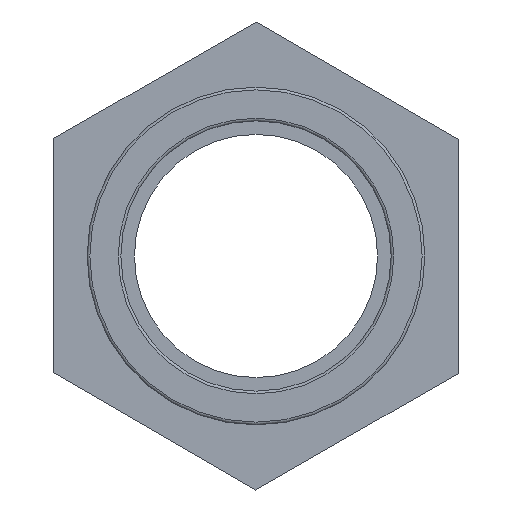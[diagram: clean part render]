
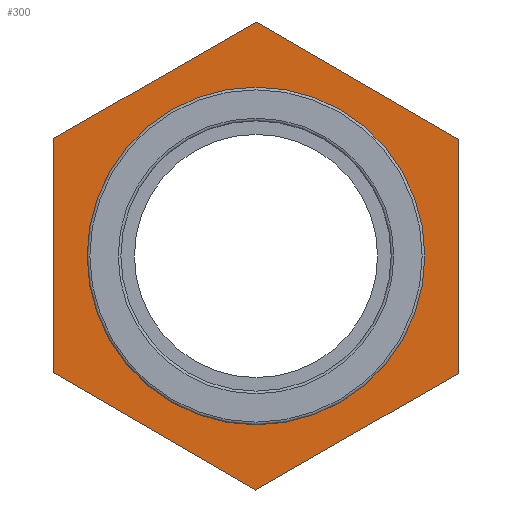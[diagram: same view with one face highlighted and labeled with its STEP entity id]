
A CAD part, left-side view. The second image highlights one B-rep face of the part: STEP entity #300.
In plain terms, the highlighted planar face has unit normal (-1, 0, 0).
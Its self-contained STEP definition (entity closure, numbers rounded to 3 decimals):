
#15=LINE('',#466,#33);
#19=LINE('',#474,#37);
#22=LINE('',#480,#40);
#25=LINE('',#487,#43);
#29=LINE('',#494,#47);
#31=LINE('',#497,#49);
#33=VECTOR('',#386,17.321);
#37=VECTOR('',#392,17.321);
#40=VECTOR('',#397,17.321);
#43=VECTOR('',#402,17.321);
#47=VECTOR('',#408,17.321);
#49=VECTOR('',#412,17.321);
#67=PLANE('',#337);
#82=FACE_BOUND('',#139,.T.);
#103=FACE_OUTER_BOUND('',#138,.T.);
#138=EDGE_LOOP('',(#269,#270,#271,#272,#273,#274));
#139=EDGE_LOOP('',(#275));
#151=CIRCLE('',#324,12.5);
#165=VERTEX_POINT('',#461);
#166=VERTEX_POINT('',#464);
#167=VERTEX_POINT('',#465);
#170=VERTEX_POINT('',#473);
#172=VERTEX_POINT('',#479);
#174=VERTEX_POINT('',#485);
#175=VERTEX_POINT('',#486);
#191=EDGE_CURVE('',#165,#165,#151,.T.);
#192=EDGE_CURVE('',#166,#167,#15,.T.);
#196=EDGE_CURVE('',#167,#170,#19,.T.);
#199=EDGE_CURVE('',#170,#172,#22,.T.);
#202=EDGE_CURVE('',#174,#175,#25,.T.);
#206=EDGE_CURVE('',#175,#166,#29,.T.);
#208=EDGE_CURVE('',#172,#174,#31,.T.);
#269=ORIENTED_EDGE('',*,*,#206,.F.);
#270=ORIENTED_EDGE('',*,*,#202,.F.);
#271=ORIENTED_EDGE('',*,*,#208,.F.);
#272=ORIENTED_EDGE('',*,*,#199,.F.);
#273=ORIENTED_EDGE('',*,*,#196,.F.);
#274=ORIENTED_EDGE('',*,*,#192,.F.);
#275=ORIENTED_EDGE('',*,*,#191,.F.);
#300=ADVANCED_FACE('',(#103,#82),#67,.T.);
#324=AXIS2_PLACEMENT_3D('',#462,#382,#383);
#337=AXIS2_PLACEMENT_3D('',#507,#426,#427);
#382=DIRECTION('center_axis',(-1.,0.,0.));
#383=DIRECTION('ref_axis',(0.,0.,1.));
#386=DIRECTION('',(0.,0.003,-1.));
#392=DIRECTION('',(0.,0.867,-0.498));
#397=DIRECTION('',(0.,0.865,0.502));
#402=DIRECTION('',(0.,-0.867,0.498));
#408=DIRECTION('',(0.,-0.865,-0.502));
#412=DIRECTION('',(0.,-0.003,1.));
#426=DIRECTION('center_axis',(-1.,0.,0.));
#427=DIRECTION('ref_axis',(0.,0.,1.));
#461=CARTESIAN_POINT('',(-4.,-12.5,0.));
#462=CARTESIAN_POINT('Origin',(-4.,0.,0.));
#464=CARTESIAN_POINT('',(-4.,-15.023,8.62));
#465=CARTESIAN_POINT('',(-4.,-14.977,-8.7));
#466=CARTESIAN_POINT('',(-4.,-14.988,-4.37));
#473=CARTESIAN_POINT('',(-4.,0.046,-17.32));
#474=CARTESIAN_POINT('',(-4.,-3.71,-15.165));
#479=CARTESIAN_POINT('',(-4.,15.023,-8.62));
#480=CARTESIAN_POINT('',(-4.,11.279,-10.795));
#485=CARTESIAN_POINT('',(-4.,14.977,8.7));
#486=CARTESIAN_POINT('',(-4.,-0.046,17.32));
#487=CARTESIAN_POINT('',(-4.,3.71,15.165));
#494=CARTESIAN_POINT('',(-4.,-11.279,10.795));
#497=CARTESIAN_POINT('',(-4.,15.,0.04));
#507=CARTESIAN_POINT('Origin',(-4.,-12.5,0.));
